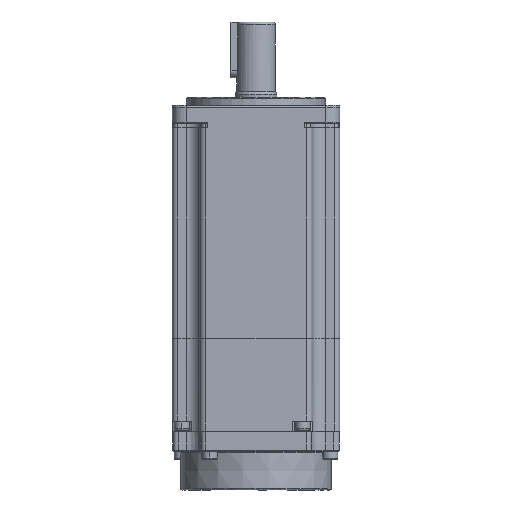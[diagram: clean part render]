
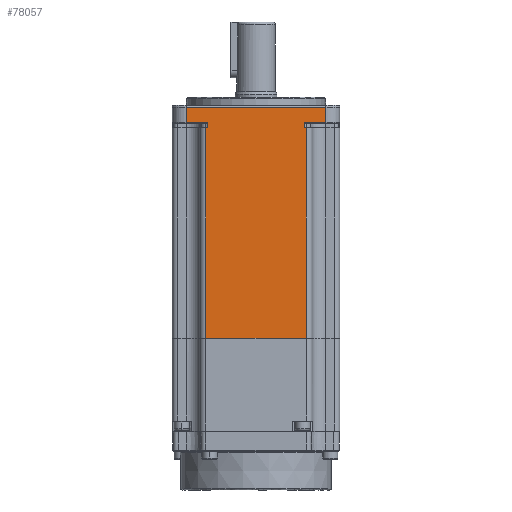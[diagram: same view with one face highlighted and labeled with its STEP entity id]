
A CAD part, front view. The second image highlights one B-rep face of the part: STEP entity #78057.
In plain terms, the highlighted planar face has unit normal (0, -1, 0).
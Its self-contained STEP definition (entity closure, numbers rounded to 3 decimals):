
#24 = EDGE_CURVE ( 'NONE', #55497, #62242, #89376, .T. ) ;
#1055 = VECTOR ( 'NONE', #8003, 1000. ) ;
#2241 = EDGE_CURVE ( 'NONE', #17858, #32714, #36146, .T. ) ;
#2378 = LINE ( 'NONE', #42808, #37470 ) ;
#2993 = LINE ( 'NONE', #25163, #56827 ) ;
#3756 = CARTESIAN_POINT ( 'NONE',  ( 17.016, -39.646, 95.7 ) ) ;
#4268 = VERTEX_POINT ( 'NONE', #67050 ) ;
#7118 = VECTOR ( 'NONE', #21364, 1000. ) ;
#8003 = DIRECTION ( 'NONE',  ( 1., 0., 0. ) ) ;
#9223 = ORIENTED_EDGE ( 'NONE', *, *, #35756, .T. ) ;
#9901 = ORIENTED_EDGE ( 'NONE', *, *, #36027, .T. ) ;
#9976 = LINE ( 'NONE', #32499, #47334 ) ;
#10746 = DIRECTION ( 'NONE',  ( 0., 0., -1. ) ) ;
#10776 = AXIS2_PLACEMENT_3D ( 'NONE', #12987, #90358, #48260 ) ;
#12987 = CARTESIAN_POINT ( 'NONE',  ( -30.584, -39.646, 102.1 ) ) ;
#13379 = CARTESIAN_POINT ( 'NONE',  ( 17.616, -39.646, 93.7 ) ) ;
#13905 = CARTESIAN_POINT ( 'NONE',  ( 24.616, -39.646, 102.1 ) ) ;
#14582 = LINE ( 'NONE', #34069, #68431 ) ;
#14784 = VECTOR ( 'NONE', #10746, 1000. ) ;
#15099 = EDGE_CURVE ( 'NONE', #56604, #17858, #16996, .T. ) ;
#16133 = VECTOR ( 'NONE', #43569, 1000. ) ;
#16996 = LINE ( 'NONE', #45769, #14784 ) ;
#17644 = EDGE_CURVE ( 'NONE', #49471, #78559, #2378, .T. ) ;
#17858 = VERTEX_POINT ( 'NONE', #87319 ) ;
#17972 = CARTESIAN_POINT ( 'NONE',  ( 24.616, -39.646, 95.7 ) ) ;
#18876 = VECTOR ( 'NONE', #48169, 1000. ) ;
#21364 = DIRECTION ( 'NONE',  ( -1., 0., 0. ) ) ;
#22048 = EDGE_CURVE ( 'NONE', #49471, #65690, #65831, .T. ) ;
#25163 = CARTESIAN_POINT ( 'NONE',  ( -30.584, -39.646, 93.7 ) ) ;
#27616 = ORIENTED_EDGE ( 'NONE', *, *, #59112, .T. ) ;
#27962 = DIRECTION ( 'NONE',  ( 0., 0., 1. ) ) ;
#28094 = CARTESIAN_POINT ( 'NONE',  ( -30.584, -39.646, 93.7 ) ) ;
#29372 = VERTEX_POINT ( 'NONE', #3756 ) ;
#31898 = ORIENTED_EDGE ( 'NONE', *, *, #44094, .T. ) ;
#32499 = CARTESIAN_POINT ( 'NONE',  ( 17.016, -39.646, 102.1 ) ) ;
#32714 = VERTEX_POINT ( 'NONE', #59277 ) ;
#33213 = VECTOR ( 'NONE', #27962, 1000. ) ;
#34069 = CARTESIAN_POINT ( 'NONE',  ( -30.584, -39.646, 101.1 ) ) ;
#34731 = LINE ( 'NONE', #78260, #16133 ) ;
#34993 = VERTEX_POINT ( 'NONE', #81603 ) ;
#35756 = EDGE_CURVE ( 'NONE', #4268, #86502, #2993, .T. ) ;
#36027 = EDGE_CURVE ( 'NONE', #32714, #4268, #34731, .T. ) ;
#36146 = LINE ( 'NONE', #43012, #1055 ) ;
#37104 = EDGE_CURVE ( 'NONE', #65690, #34993, #63193, .T. ) ;
#37470 = VECTOR ( 'NONE', #49856, 1000. ) ;
#41115 = CARTESIAN_POINT ( 'NONE',  ( -18.584, -39.646, 102.1 ) ) ;
#41209 = DIRECTION ( 'NONE',  ( -1., 0., 0. ) ) ;
#42522 = ORIENTED_EDGE ( 'NONE', *, *, #22048, .T. ) ;
#42808 = CARTESIAN_POINT ( 'NONE',  ( -30.584, -39.646, 17.9 ) ) ;
#43012 = CARTESIAN_POINT ( 'NONE',  ( -17.984, -39.646, 95.7 ) ) ;
#43569 = DIRECTION ( 'NONE',  ( 0., 0., -1. ) ) ;
#43903 = CARTESIAN_POINT ( 'NONE',  ( 24.616, -39.646, 95.7 ) ) ;
#44094 = EDGE_CURVE ( 'NONE', #34993, #29372, #9976, .T. ) ;
#45769 = CARTESIAN_POINT ( 'NONE',  ( -25.584, -39.646, 102.1 ) ) ;
#47135 = VECTOR ( 'NONE', #56520, 1000. ) ;
#47334 = VECTOR ( 'NONE', #89097, 1000. ) ;
#48169 = DIRECTION ( 'NONE',  ( 0., 0., -1. ) ) ;
#48260 = DIRECTION ( 'NONE',  ( -1., 0., 0. ) ) ;
#49471 = VERTEX_POINT ( 'NONE', #84626 ) ;
#49856 = DIRECTION ( 'NONE',  ( -1., 0., 0. ) ) ;
#53012 = ORIENTED_EDGE ( 'NONE', *, *, #57536, .T. ) ;
#53234 = EDGE_CURVE ( 'NONE', #29372, #55497, #75647, .T. ) ;
#55497 = VERTEX_POINT ( 'NONE', #17972 ) ;
#56520 = DIRECTION ( 'NONE',  ( 0., 0., 1. ) ) ;
#56604 = VERTEX_POINT ( 'NONE', #71802 ) ;
#56827 = VECTOR ( 'NONE', #60534, 1000. ) ;
#56954 = VECTOR ( 'NONE', #65111, 1000. ) ;
#57536 = EDGE_CURVE ( 'NONE', #62242, #56604, #14582, .T. ) ;
#59112 = EDGE_CURVE ( 'NONE', #86502, #78559, #62870, .T. ) ;
#59277 = CARTESIAN_POINT ( 'NONE',  ( -17.984, -39.646, 95.7 ) ) ;
#60534 = DIRECTION ( 'NONE',  ( -1., 0., 0. ) ) ;
#61138 = CARTESIAN_POINT ( 'NONE',  ( -18.584, -39.646, 17.9 ) ) ;
#62242 = VERTEX_POINT ( 'NONE', #84658 ) ;
#62820 = ORIENTED_EDGE ( 'NONE', *, *, #17644, .F. ) ;
#62870 = LINE ( 'NONE', #41115, #18876 ) ;
#63193 = LINE ( 'NONE', #28094, #7118 ) ;
#65111 = DIRECTION ( 'NONE',  ( 1., 0., 0. ) ) ;
#65690 = VERTEX_POINT ( 'NONE', #13379 ) ;
#65831 = LINE ( 'NONE', #70358, #47135 ) ;
#67050 = CARTESIAN_POINT ( 'NONE',  ( -17.984, -39.646, 93.7 ) ) ;
#68431 = VECTOR ( 'NONE', #41209, 1000. ) ;
#70358 = CARTESIAN_POINT ( 'NONE',  ( 17.616, -39.646, 102.1 ) ) ;
#71802 = CARTESIAN_POINT ( 'NONE',  ( -25.584, -39.646, 101.1 ) ) ;
#72171 = CARTESIAN_POINT ( 'NONE',  ( -18.584, -39.646, 93.7 ) ) ;
#75647 = LINE ( 'NONE', #43903, #56954 ) ;
#76228 = PLANE ( 'NONE',  #10776 ) ;
#78057 = ADVANCED_FACE ( 'NONE', ( #90882 ), #76228, .F. ) ;
#78243 = EDGE_LOOP ( 'NONE', ( #62820, #42522, #87983, #31898, #90720, #87533, #53012, #87169, #85301, #9901, #9223, #27616 ) ) ;
#78260 = CARTESIAN_POINT ( 'NONE',  ( -17.984, -39.646, 102.1 ) ) ;
#78559 = VERTEX_POINT ( 'NONE', #61138 ) ;
#81603 = CARTESIAN_POINT ( 'NONE',  ( 17.016, -39.646, 93.7 ) ) ;
#84626 = CARTESIAN_POINT ( 'NONE',  ( 17.616, -39.646, 17.9 ) ) ;
#84658 = CARTESIAN_POINT ( 'NONE',  ( 24.616, -39.646, 101.1 ) ) ;
#85301 = ORIENTED_EDGE ( 'NONE', *, *, #2241, .T. ) ;
#86502 = VERTEX_POINT ( 'NONE', #72171 ) ;
#87169 = ORIENTED_EDGE ( 'NONE', *, *, #15099, .T. ) ;
#87319 = CARTESIAN_POINT ( 'NONE',  ( -25.584, -39.646, 95.7 ) ) ;
#87533 = ORIENTED_EDGE ( 'NONE', *, *, #24, .T. ) ;
#87983 = ORIENTED_EDGE ( 'NONE', *, *, #37104, .T. ) ;
#89097 = DIRECTION ( 'NONE',  ( 0., 0., 1. ) ) ;
#89376 = LINE ( 'NONE', #13905, #33213 ) ;
#90358 = DIRECTION ( 'NONE',  ( 0., 1., 0. ) ) ;
#90720 = ORIENTED_EDGE ( 'NONE', *, *, #53234, .T. ) ;
#90882 = FACE_OUTER_BOUND ( 'NONE', #78243, .T. ) ;
